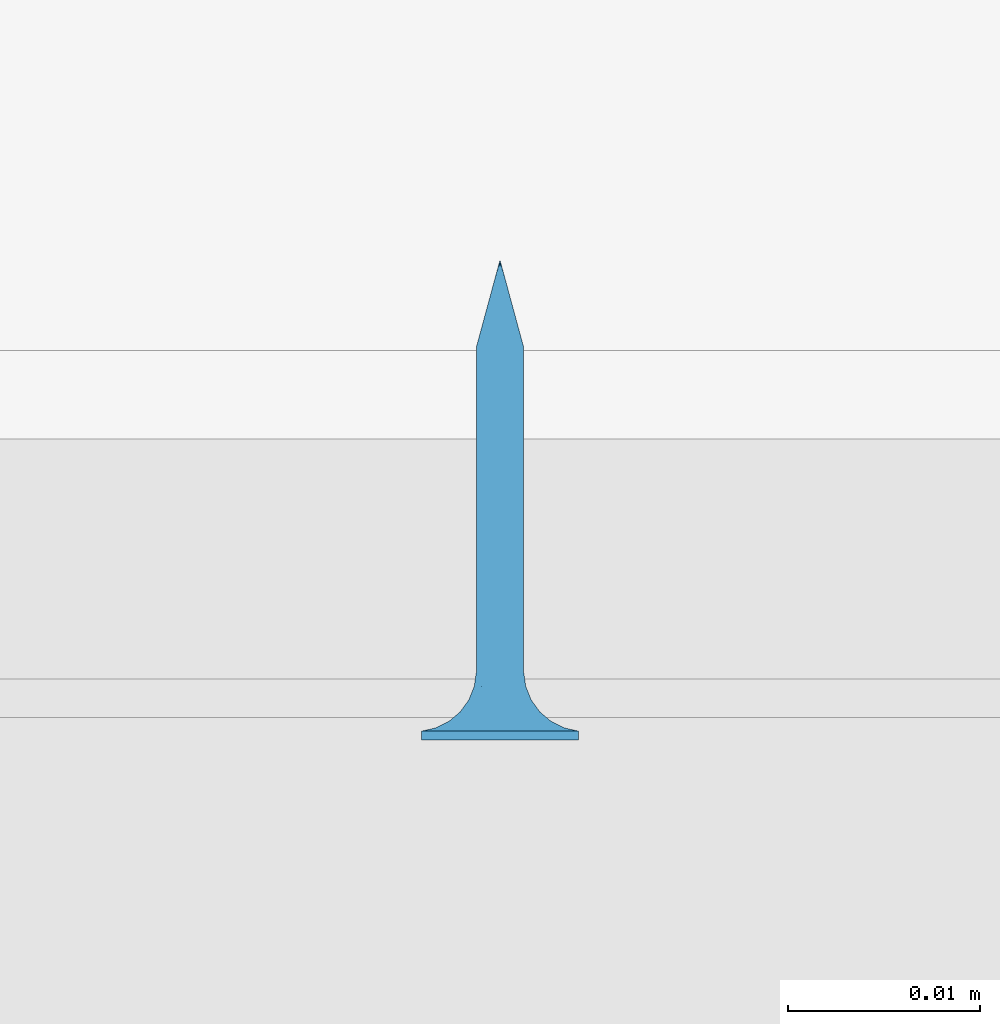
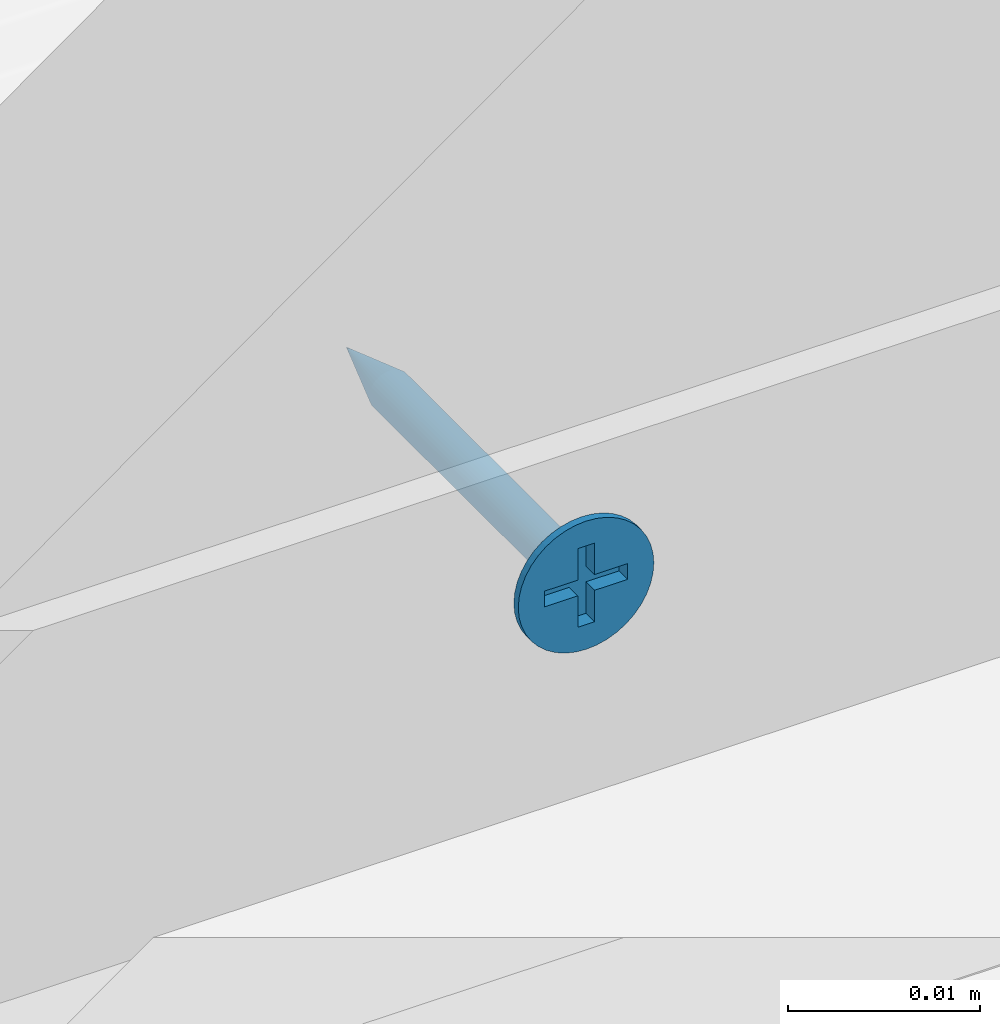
# One storey, part 37 of 79: 1 slab.
"""IFC2X3 building model written with IfcOpenShell, lengths in millimetres."""

from ifc_helpers import new_model, entity, si_unit, converted_unit, direction, frame, origin, origin_with_axes, place, context, project, spatial, faceted_brep, element, save


model = new_model("IFC2X3")

# Units and contexts
model_context = context("Model", 3, precision=1e-05, world=origin(), true_north=direction((0.0, 1.0, 0.0)))
ifc_project = project(units=[si_unit("LENGTHUNIT", "METRE", prefix="MILLI"), si_unit("AREAUNIT", "SQUARE_METRE"), si_unit("VOLUMEUNIT", "CUBIC_METRE"), converted_unit("PLANEANGLEUNIT", "DEGREE", entity("IfcPlaneAngleMeasure", 0.01745), si_unit("PLANEANGLEUNIT", "RADIAN"), dimensions=[0, 0, 0, 0, 0, 0, 0]), si_unit("SOLIDANGLEUNIT", "STERADIAN"), si_unit("MASSUNIT", "GRAM"), si_unit("TIMEUNIT", "SECOND"), si_unit("THERMODYNAMICTEMPERATUREUNIT", "DEGREE_CELSIUS"), si_unit("LUMINOUSINTENSITYUNIT", "LUMEN")], contexts=[model_context])

# Site, building, storey
site_placement = place(None, origin_with_axes())
site = spatial("IfcSite", under=ifc_project, at=site_placement, Name="Default Site", CompositionType="ELEMENT")
building_placement = place(site_placement, origin_with_axes())
building = spatial("IfcBuilding", under=site, at=building_placement, Name="Default Building", CompositionType="ELEMENT")
storey_placement = place(building_placement, origin_with_axes())
storey = spatial("IfcBuildingStorey", under=building, at=storey_placement, Name="Default Building Storey", CompositionType="ELEMENT", Elevation=0.0)

# Slab
slab_placement = place(storey_placement, frame((3480.499834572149, 5017.241866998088, 440.6779499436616), z_axis=(0.0, 0.0, 1.0), x_axis=(1.0, 0.0, 0.0)))
element("IfcSlab", 1, at=slab_placement, inside=storey, Name="Łącznik mechaniczny", context=model_context, shape_type="Brep", body=[
    faceted_brep([(-136.5890362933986, -3387.475459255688, 554.9298199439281), (-136.4636235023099, -3387.475459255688, 555.0766594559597), (-136.4636235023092, -3370.55807436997, 555.0766594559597), (-136.5890362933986, -3370.55807436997, 554.9298199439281), (-136.9005263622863, -3387.475459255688, 554.7035091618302), (-136.9005263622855, -3370.55807436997, 554.7035091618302), (-137.0789337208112, -3370.55807436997, 554.6296104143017), (-137.078933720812, -3387.475459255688, 554.6296104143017), (-137.2667048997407, -3387.475459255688, 554.5845305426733), (-137.2667048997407, -3370.55807436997, 554.5845305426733), (-137.4592163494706, -3370.55807436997, 554.5693795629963), (-137.4592163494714, -3387.475459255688, 554.5693795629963), (-136.4636235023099, -3387.475459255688, 556.5233405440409), (-136.5890362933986, -3387.475459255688, 556.6701800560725), (-136.5890362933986, -3370.55807436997, 556.6701800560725), (-136.4636235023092, -3370.55807436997, 556.5233405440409), (-138.4548091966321, -3370.55807436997, 556.5233405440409), (-138.3293964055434, -3370.55807436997, 556.6701800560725), (-138.3293964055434, -3387.475459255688, 556.6701800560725), (-138.4548091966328, -3387.475459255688, 556.5233405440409), (-136.7358758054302, -3370.55807436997, 554.8044071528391), (-136.7358758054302, -3387.475459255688, 554.8044071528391), (-138.1825568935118, -3387.475459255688, 556.7955928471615), (-138.1825568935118, -3370.55807436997, 556.7955928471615), (-138.0179063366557, -3370.55807436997, 556.8964908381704), (-138.0179063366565, -3387.475459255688, 556.8964908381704), (-136.3627255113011, -3387.475459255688, 556.3586899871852), (-136.3627255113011, -3370.55807436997, 556.3586899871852), (-136.7358758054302, -3387.475459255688, 556.7955928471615), (-136.7358758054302, -3370.55807436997, 556.7955928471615), (-137.6517277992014, -3387.475459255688, 554.5845305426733), (-137.6517277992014, -3370.55807436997, 554.5845305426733), (-137.83949897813, -3370.55807436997, 554.6296104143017), (-137.8394989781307, -3387.475459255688, 554.6296104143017), (-136.3627255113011, -3387.475459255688, 555.241310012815), (-136.3627255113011, -3370.55807436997, 555.241310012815), (-138.0179063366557, -3370.55807436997, 554.7035091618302), (-138.0179063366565, -3387.475459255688, 554.7035091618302), (-138.6746858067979, -3370.55807436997, 555.6074885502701), (-138.6898367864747, -3370.55807436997, 555.8000000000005), (-138.6898367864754, -3387.475459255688, 555.8000000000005), (-138.6746858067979, -3387.475459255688, 555.6074885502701), (-136.2285959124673, -3387.475459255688, 555.8000000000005), (-136.2437468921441, -3387.475459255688, 555.9925114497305), (-136.2437468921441, -3370.55807436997, 555.9925114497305), (-136.2285959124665, -3370.55807436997, 555.8000000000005), (-138.3293964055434, -3370.55807436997, 554.9298199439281), (-138.4548091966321, -3370.55807436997, 555.0766594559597), (-138.4548091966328, -3387.475459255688, 555.0766594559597), (-138.3293964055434, -3387.475459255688, 554.9298199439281), (-137.83949897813, -3370.55807436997, 556.9703895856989), (-137.8394989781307, -3387.475459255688, 556.9703895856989), (-138.1825568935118, -3370.55807436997, 554.8044071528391), (-138.1825568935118, -3387.475459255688, 554.8044071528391), (-138.5557071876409, -3370.55807436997, 555.241310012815), (-138.6296059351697, -3370.55807436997, 555.4197173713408), (-138.6296059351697, -3387.475459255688, 555.4197173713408), (-138.5557071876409, -3387.475459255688, 555.241310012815), (-136.2888267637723, -3387.475459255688, 555.4197173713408), (-136.2437468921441, -3387.475459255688, 555.6074885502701), (-136.2437468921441, -3370.55807436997, 555.6074885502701), (-136.2888267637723, -3370.55807436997, 555.4197173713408), (-136.2888267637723, -3387.475459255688, 556.1802826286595), (-136.2888267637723, -3370.55807436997, 556.1802826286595), (-137.4592163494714, -3387.475459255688, 557.0306204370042), (-137.4592163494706, -3370.55807436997, 557.0306204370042), (-137.2667048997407, -3370.55807436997, 557.0154694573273), (-137.2667048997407, -3387.475459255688, 557.0154694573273), (-137.0789337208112, -3370.55807436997, 556.9703895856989), (-137.078933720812, -3387.475459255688, 556.9703895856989), (-137.6517277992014, -3387.475459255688, 557.0154694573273), (-137.6517277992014, -3370.55807436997, 557.0154694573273), (-136.9005263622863, -3387.475459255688, 556.8964908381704), (-136.9005263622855, -3370.55807436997, 556.8964908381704), (-138.6296059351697, -3370.55807436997, 556.1802826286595), (-138.5557071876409, -3370.55807436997, 556.3586899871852), (-138.5557071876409, -3387.475459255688, 556.3586899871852), (-138.6296059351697, -3387.475459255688, 556.1802826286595), (-138.6746858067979, -3370.55807436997, 555.9925114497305), (-138.6746858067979, -3387.475459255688, 555.9925114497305), (-141.5377463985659, -3390.556721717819, 555.8000000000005), (-141.5377463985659, -3391.020944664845, 555.8000000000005), (-141.4875329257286, -3391.020944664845, 555.1619773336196), (-141.4875329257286, -3390.556721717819, 555.1619773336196), (-141.338128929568, -3391.020944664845, 554.539664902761), (-141.338128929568, -3390.556721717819, 554.539664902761), (-141.0932132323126, -3391.020944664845, 553.948386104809), (-141.0932132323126, -3390.556721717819, 553.948386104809), (-140.7588164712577, -3391.020944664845, 553.4027001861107), (-140.7588164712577, -3390.556721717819, 553.4027001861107), (-140.3431726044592, -3391.020944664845, 552.9160437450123), (-140.4541727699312, -3390.556721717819, 553.0314907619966), (-140.1080097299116, -3390.556721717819, 552.6986614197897), (-139.8565161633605, -3391.020944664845, 552.5003998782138), (-139.7251262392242, -3390.556721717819, 552.4088262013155), (-139.3108302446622, -3391.020944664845, 552.1660031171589), (-139.3108302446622, -3390.556721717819, 552.1660031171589), (-138.8708651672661, -3390.556721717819, 551.9735584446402), (-138.7195514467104, -3391.020944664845, 551.9210874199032), (-138.4113302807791, -3390.556721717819, 551.8341600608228), (-137.9385961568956, -3390.556721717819, 551.7497404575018), (-138.0972390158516, -3391.020944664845, 551.7716834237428), (-137.4592163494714, -3391.020944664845, 551.7214699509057), (-137.4592163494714, -3390.556721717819, 551.7214699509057), (-136.8211936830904, -3391.020944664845, 551.7716834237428), (-136.8211936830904, -3390.556721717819, 551.7716834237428), (-136.1988812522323, -3391.020944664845, 551.9210874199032), (-136.1988812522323, -3390.556721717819, 551.9210874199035), (-135.6076024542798, -3391.020944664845, 552.1660031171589), (-135.6076024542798, -3390.556721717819, 552.1660031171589), (-135.0619165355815, -3391.020944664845, 552.5003998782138), (-135.0619165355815, -3390.556721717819, 552.5003998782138), (-134.5752600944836, -3391.020944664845, 552.9160437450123), (-134.5752600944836, -3390.556721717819, 552.9160437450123), (-134.1596162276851, -3391.020944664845, 553.4027001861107), (-134.1596162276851, -3390.556721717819, 553.4027001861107), (-133.8252194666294, -3391.020944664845, 553.948386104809), (-133.8252194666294, -3390.556721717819, 553.948386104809), (-133.580303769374, -3391.020944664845, 554.539664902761), (-133.580303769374, -3390.556721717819, 554.539664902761), (-133.4308997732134, -3391.020944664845, 556.438022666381), (-133.4308997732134, -3390.556721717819, 556.438022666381), (-133.3806863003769, -3390.556721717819, 555.8000000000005), (-133.3806863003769, -3391.020944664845, 555.8000000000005), (-133.4308997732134, -3390.556721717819, 555.1619773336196), (-133.4308997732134, -3391.020944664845, 555.1619773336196), (-133.580303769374, -3391.020944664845, 557.0603350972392), (-133.580303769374, -3390.556721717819, 557.0603350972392), (-133.8252194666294, -3391.020944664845, 557.6516138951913), (-133.8252194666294, -3390.556721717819, 557.6516138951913), (-134.1596162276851, -3391.020944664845, 558.1972998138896), (-134.1596162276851, -3390.556721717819, 558.1972998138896), (-134.5752600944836, -3391.020944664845, 558.683956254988), (-134.5752600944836, -3390.556721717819, 558.683956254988), (-135.0619165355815, -3391.020944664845, 559.0996001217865), (-135.0619165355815, -3390.556721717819, 559.0996001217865), (-135.6076024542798, -3391.020944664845, 559.4339968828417), (-135.6076024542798, -3390.556721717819, 559.4339968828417), (-136.1988812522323, -3391.020944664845, 559.6789125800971), (-136.1988812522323, -3390.556721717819, 559.6789125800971), (-136.8211936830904, -3391.020944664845, 559.8283165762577), (-136.8211936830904, -3390.556721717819, 559.8283165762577), (-137.4592163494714, -3391.020944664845, 559.8785300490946), (-137.4592163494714, -3390.556721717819, 559.8785300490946), (-138.0972390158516, -3391.020944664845, 559.8283165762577), (-138.0972390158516, -3390.556721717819, 559.8283165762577), (-138.7195514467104, -3391.020944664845, 559.6789125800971), (-138.7195514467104, -3390.556721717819, 559.6789125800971), (-139.3108302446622, -3391.020944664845, 559.4339968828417), (-139.3108302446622, -3390.556721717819, 559.4339968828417), (-139.8565161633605, -3391.020944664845, 559.0996001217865), (-139.8565161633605, -3390.556721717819, 559.0996001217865), (-140.3431726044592, -3391.020944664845, 558.683956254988), (-140.3431726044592, -3390.556721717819, 558.683956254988), (-140.7588164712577, -3391.020944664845, 558.1972998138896), (-140.7588164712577, -3390.556721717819, 558.1972998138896), (-141.0932132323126, -3391.020944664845, 557.6516138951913), (-141.0932132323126, -3390.556721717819, 557.6516138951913), (-141.338128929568, -3391.020944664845, 557.0603350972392), (-141.338128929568, -3390.556721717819, 557.0603350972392), (-141.4875329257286, -3391.020944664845, 556.438022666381), (-141.4875329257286, -3390.556721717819, 556.438022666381), (-137.8060615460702, -3388.229732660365, 554.5055560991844), (-137.4592163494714, -3388.229732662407, 554.4598930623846), (-138.1292698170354, -3388.229732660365, 554.6394333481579), (-138.4068150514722, -3388.229732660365, 554.8524012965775), (-138.6197830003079, -3388.229732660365, 555.1299465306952), (-138.7536602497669, -3388.229732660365, 555.4531548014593), (-138.7993232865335, -3388.229732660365, 555.7999999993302), (-138.7536602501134, -3388.229732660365, 556.1468451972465), (-138.6197830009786, -3388.229732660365, 556.4700534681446), (-138.4068150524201, -3388.229732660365, 556.7475987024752), (-138.1292698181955, -3388.229732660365, 556.9605666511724), (-137.8060615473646, -3388.229732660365, 557.0944439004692), (-137.4592163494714, -3388.229732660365, 557.1401069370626), (-137.1123711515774, -3388.229732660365, 557.0944439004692), (-136.7891628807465, -3388.229732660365, 556.9605666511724), (-136.5116176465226, -3388.229732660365, 556.7475987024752), (-136.2986496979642, -3388.229732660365, 556.4700534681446), (-136.1647724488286, -3388.229732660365, 556.1468451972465), (-136.1191094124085, -3388.229732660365, 555.7999999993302), (-136.1647724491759, -3388.229732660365, 555.4531548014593), (-136.2986496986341, -3388.229732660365, 555.1299465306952), (-136.5116176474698, -3388.229732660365, 554.8524012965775), (-136.7891628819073, -3388.229732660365, 554.6394333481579), (-137.1123711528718, -3388.229732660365, 554.5055560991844), (-137.4592163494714, -3388.936142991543, 554.1737111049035), (-137.8801308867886, -3388.936142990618, 554.2291255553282), (-138.2723607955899, -3388.936142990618, 554.39159250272), (-138.6091762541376, -3388.936142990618, 554.6500400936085), (-138.8676238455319, -3388.936142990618, 554.9868555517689), (-139.0300907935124, -3388.936142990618, 555.3790854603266), (-139.0855052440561, -3388.936142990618, 555.7999999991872), (-139.0300907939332, -3388.936142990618, 556.2209145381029), (-138.8676238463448, -3388.936142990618, 556.6131444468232), (-138.6091762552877, -3388.936142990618, 556.949959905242), (-138.2723607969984, -3388.936142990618, 557.2084074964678), (-137.8801308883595, -3388.936142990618, 557.3708744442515), (-137.4592163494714, -3388.936142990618, 557.4262888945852), (-137.0383018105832, -3388.936142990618, 557.3708744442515), (-136.6460719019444, -3388.936142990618, 557.2084074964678), (-136.3092564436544, -3388.936142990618, 556.949959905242), (-136.0508088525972, -3388.936142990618, 556.6131444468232), (-135.8883419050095, -3388.936142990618, 556.2209145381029), (-135.8329274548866, -3388.936142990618, 555.7999999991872), (-135.8883419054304, -3388.936142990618, 555.3790854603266), (-136.0508088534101, -3388.936142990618, 554.9868555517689), (-136.3092564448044, -3388.936142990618, 554.6500400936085), (-136.6460719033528, -3388.936142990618, 554.39159250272), (-137.0383018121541, -3388.936142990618, 554.2291255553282), (-137.4592163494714, -3389.553938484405, 553.727343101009), (-137.9956594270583, -3389.553938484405, 553.7979671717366), (-138.4955447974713, -3389.553938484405, 554.0050264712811), (-138.9248060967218, -3389.553938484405, 554.3344102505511), (-139.2541898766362, -3389.553938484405, 554.7636715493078), (-139.46124917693, -3389.553938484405, 555.2635569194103), (-139.5318732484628, -3389.553938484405, 555.7999999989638), (-139.4612491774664, -3389.553938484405, 556.3364430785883), (-139.2541898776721, -3389.553938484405, 556.8363284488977), (-138.9248060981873, -3389.553938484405, 557.2655897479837), (-138.495544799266, -3389.553938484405, 557.5949735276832), (-137.9956594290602, -3389.553938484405, 557.8020328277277), (-137.4592163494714, -3389.553938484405, 557.8726568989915), (-136.9227732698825, -3389.553938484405, 557.8020328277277), (-136.422887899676, -3389.553938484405, 557.5949735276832), (-135.9936266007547, -3389.553938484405, 557.2655897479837), (-135.6642428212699, -3389.553938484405, 556.8363284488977), (-135.4571835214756, -3389.553938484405, 556.3364430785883), (-135.3865594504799, -3389.553938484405, 555.7999999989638), (-135.457183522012, -3389.553938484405, 555.2635569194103), (-135.6642428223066, -3389.553938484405, 554.7636715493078), (-135.9936266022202, -3389.553938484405, 554.3344102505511), (-136.4228879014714, -3389.553938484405, 554.0050264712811), (-136.9227732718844, -3389.553938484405, 553.7979671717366), (-137.4592163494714, -3390.04747944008, 553.1465393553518), (-138.1459824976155, -3390.047479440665, 553.2369538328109), (-138.7859466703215, -3390.047479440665, 553.5020356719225), (-139.3354963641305, -3390.047479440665, 553.9237199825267), (-139.757180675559, -3390.047479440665, 554.4732696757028), (-140.0222625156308, -3390.047479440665, 555.1132338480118), (-140.1126769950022, -3390.047479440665, 555.7999999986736), (-140.0222625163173, -3390.047479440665, 556.4867661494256), (-139.7571806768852, -3390.047479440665, 557.1267303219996), (-139.3354963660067, -3390.047479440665, 557.6762800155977), (-138.7859466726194, -3390.047479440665, 558.0979643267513), (-138.1459825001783, -3390.047479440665, 558.3630461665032), (-137.4592163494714, -3390.047479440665, 558.4534606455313), (-136.7724501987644, -3390.047479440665, 558.3630461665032), (-136.1324860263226, -3390.047479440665, 558.0979643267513), (-135.5829363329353, -3390.047479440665, 557.6762800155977), (-135.1612520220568, -3390.047479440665, 557.1267303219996), (-134.8961701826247, -3390.047479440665, 556.4867661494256), (-134.8057557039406, -3390.047479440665, 555.7999999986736), (-134.8961701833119, -3390.047479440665, 555.1132338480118), (-135.1612520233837, -3390.047479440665, 554.4732696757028), (-135.5829363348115, -3390.047479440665, 553.9237199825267), (-136.1324860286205, -3390.047479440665, 553.5020356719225), (-136.7724502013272, -3390.047479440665, 553.2369538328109), (-137.4592163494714, -3390.388294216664, 552.4648055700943), (-138.3224281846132, -3390.388294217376, 552.5784495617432), (-139.1268135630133, -3390.388294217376, 552.9116368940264), (-139.8175549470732, -3390.388294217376, 553.4416613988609), (-140.3475794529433, -3390.388294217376, 554.1324027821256), (-140.6807667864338, -3390.388294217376, 554.9367881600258), (-140.7944107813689, -3390.388294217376, 555.7999999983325), (-140.6807667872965, -3390.388294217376, 556.6632118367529), (-140.3475794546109, -3390.388294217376, 557.4675972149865), (-139.8175549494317, -3390.388294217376, 558.1583385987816), (-139.1268135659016, -3390.388294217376, 558.6883631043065), (-138.3224281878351, -3390.388294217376, 559.0215504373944), (-137.4592163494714, -3390.388294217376, 559.1351944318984), (-136.5960045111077, -3390.388294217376, 559.0215504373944), (-135.7916191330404, -3390.388294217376, 558.6883631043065), (-135.1008777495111, -3390.388294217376, 558.1583385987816), (-134.5708532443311, -3390.388294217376, 557.4675972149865), (-134.2376659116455, -3390.388294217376, 556.6632118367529), (-134.1240219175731, -3390.388294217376, 555.7999999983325), (-134.2376659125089, -3390.388294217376, 554.9367881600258), (-134.5708532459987, -3390.388294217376, 554.1324027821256), (-135.1008777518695, -3390.388294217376, 553.4416613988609), (-135.7916191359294, -3390.388294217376, 552.9116368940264), (-136.5960045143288, -3390.388294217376, 552.5784495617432), (-137.4592163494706, -3366.021033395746, 555.8000000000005), (-139.9592163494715, -3391.020944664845, 556.3000000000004), (-137.9592163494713, -3391.020944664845, 556.3000000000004), (-139.9592163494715, -3391.020944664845, 555.3000000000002), (-137.9592163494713, -3391.020944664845, 555.3000000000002), (-137.9592163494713, -3391.020944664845, 553.3000000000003), (-136.9592163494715, -3391.020944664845, 553.3000000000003), (-136.9592163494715, -3391.020944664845, 555.3000000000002), (-134.9592163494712, -3391.020944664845, 555.3000000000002), (-134.9592163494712, -3391.020944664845, 556.3000000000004), (-136.9592163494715, -3391.020944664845, 556.3000000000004), (-136.9592163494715, -3391.020944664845, 558.3000000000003), (-137.9592163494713, -3391.020944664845, 558.3000000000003), (-136.9592163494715, -3390.128974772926, 556.3000000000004), (-134.9592163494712, -3390.128974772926, 556.3000000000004), (-134.9592163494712, -3390.128974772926, 555.3000000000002), (-136.9592163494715, -3390.128974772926, 555.3000000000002), (-136.9592163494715, -3390.128974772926, 553.3000000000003), (-137.9592163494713, -3390.128974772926, 553.3000000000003), (-137.9592163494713, -3390.128974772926, 555.3000000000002), (-139.9592163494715, -3390.128974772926, 555.3000000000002), (-139.9592163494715, -3390.128974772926, 556.3000000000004), (-137.9592163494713, -3390.128974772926, 556.3000000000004), (-137.9592163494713, -3390.128974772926, 558.3000000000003), (-136.9592163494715, -3390.128974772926, 558.3000000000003)], [[[0, 1, 2, 3]], [[4, 5, 6, 7]], [[8, 9, 10, 11]], [[12, 13, 14, 15]], [[16, 17, 18, 19]], [[0, 3, 20, 21]], [[22, 23, 24, 25]], [[26, 12, 15, 27]], [[28, 29, 14, 13]], [[30, 31, 32, 33]], [[1, 34, 35, 2]], [[18, 17, 23, 22]], [[7, 6, 9, 8]], [[33, 32, 36, 37]], [[38, 39, 40, 41]], [[42, 43, 44, 45]], [[46, 47, 48, 49]], [[25, 24, 50, 51]], [[37, 36, 52, 53]], [[54, 55, 56, 57]], [[53, 52, 46, 49]], [[47, 54, 57, 48]], [[58, 59, 60, 61]], [[59, 42, 45, 60]], [[43, 62, 63, 44]], [[64, 65, 66, 67]], [[67, 66, 68, 69]], [[55, 38, 41, 56]], [[70, 71, 65, 64]], [[72, 73, 29, 28]], [[74, 75, 76, 77]], [[69, 68, 73, 72]], [[39, 78, 79, 40]], [[75, 16, 19, 76]], [[62, 26, 27, 63]], [[11, 10, 31, 30]], [[21, 20, 5, 4]], [[34, 58, 61, 35]], [[51, 50, 71, 70]], [[78, 74, 77, 79]], [[80, 81, 82, 83]], [[84, 85, 83, 82]], [[86, 87, 85, 84]], [[87, 86, 88, 89]], [[88, 90, 89]], [[90, 91, 89]], [[92, 91, 93]], [[91, 90, 93]], [[93, 94, 92]], [[93, 95, 94]], [[95, 96, 94]], [[97, 96, 98]], [[96, 95, 98]], [[98, 99, 97]], [[100, 99, 101]], [[99, 98, 101]], [[101, 102, 100]], [[102, 103, 100]], [[103, 102, 104, 105]], [[106, 107, 105, 104]], [[108, 109, 107, 106]], [[109, 108, 110, 111]], [[112, 113, 111, 110]], [[113, 112, 114, 115]], [[116, 117, 115, 114]], [[118, 119, 117, 116]], [[120, 121, 122, 123]], [[123, 122, 124, 125]], [[119, 118, 125, 124]], [[126, 127, 121, 120]], [[128, 129, 127, 126]], [[129, 128, 130, 131]], [[132, 133, 131, 130]], [[133, 132, 134, 135]], [[136, 137, 135, 134]], [[138, 139, 137, 136]], [[139, 138, 140, 141]], [[142, 143, 141, 140]], [[143, 142, 144, 145]], [[146, 147, 145, 144]], [[148, 149, 147, 146]], [[149, 148, 150, 151]], [[152, 153, 151, 150]], [[153, 152, 154, 155]], [[156, 157, 155, 154]], [[158, 159, 157, 156]], [[159, 158, 160, 161]], [[81, 80, 161, 160]], [[162, 11, 30]], [[162, 163, 11]], [[30, 33, 162]], [[162, 33, 164]], [[37, 164, 33]], [[164, 37, 53]], [[53, 165, 164]], [[53, 49, 165]], [[166, 49, 48]], [[166, 165, 49]], [[48, 57, 166]], [[166, 57, 167]], [[56, 167, 57]], [[167, 56, 41]], [[41, 168, 167]], [[41, 40, 168]], [[169, 40, 79]], [[169, 168, 40]], [[79, 77, 169]], [[169, 77, 170]], [[76, 170, 77]], [[170, 76, 19]], [[19, 171, 170]], [[19, 18, 171]], [[172, 18, 22]], [[172, 171, 18]], [[22, 25, 172]], [[172, 25, 173]], [[51, 173, 25]], [[173, 51, 70]], [[70, 174, 173]], [[70, 64, 174]], [[175, 64, 67]], [[175, 174, 64]], [[67, 69, 175]], [[175, 69, 176]], [[72, 176, 69]], [[176, 72, 28]], [[28, 177, 176]], [[28, 13, 177]], [[178, 13, 12]], [[178, 177, 13]], [[12, 26, 178]], [[178, 26, 179]], [[62, 179, 26]], [[179, 62, 43]], [[43, 180, 179]], [[43, 42, 180]], [[181, 42, 59]], [[181, 180, 42]], [[59, 58, 181]], [[181, 58, 182]], [[34, 182, 58]], [[182, 34, 1]], [[1, 183, 182]], [[1, 0, 183]], [[184, 0, 21]], [[184, 183, 0]], [[21, 4, 184]], [[184, 4, 185]], [[7, 185, 4]], [[185, 7, 8]], [[8, 163, 185]], [[8, 11, 163]], [[186, 163, 187]], [[162, 187, 163]], [[164, 188, 187, 162]], [[165, 189, 188, 164]], [[166, 190, 189, 165]], [[167, 191, 190, 166]], [[168, 192, 191, 167]], [[169, 193, 192, 168]], [[170, 194, 193, 169]], [[171, 195, 194, 170]], [[172, 196, 195, 171]], [[173, 197, 196, 172]], [[174, 198, 197, 173]], [[175, 199, 198, 174]], [[176, 200, 199, 175]], [[177, 201, 200, 176]], [[178, 202, 201, 177]], [[179, 203, 202, 178]], [[180, 204, 203, 179]], [[181, 205, 204, 180]], [[182, 206, 205, 181]], [[183, 207, 206, 182]], [[184, 208, 207, 183]], [[185, 209, 208, 184]], [[185, 163, 209]], [[186, 209, 163]], [[210, 186, 211]], [[187, 211, 186]], [[188, 212, 211, 187]], [[189, 213, 212, 188]], [[190, 214, 213, 189]], [[191, 215, 214, 190]], [[192, 216, 215, 191]], [[193, 217, 216, 192]], [[194, 218, 217, 193]], [[195, 219, 218, 194]], [[196, 220, 219, 195]], [[197, 221, 220, 196]], [[198, 222, 221, 197]], [[199, 223, 222, 198]], [[200, 224, 223, 199]], [[201, 225, 224, 200]], [[202, 226, 225, 201]], [[203, 227, 226, 202]], [[204, 228, 227, 203]], [[205, 229, 228, 204]], [[206, 230, 229, 205]], [[207, 231, 230, 206]], [[208, 232, 231, 207]], [[209, 233, 232, 208]], [[209, 186, 233]], [[210, 233, 186]], [[234, 210, 235]], [[211, 235, 210]], [[212, 236, 235, 211]], [[213, 237, 236, 212]], [[214, 238, 237, 213]], [[215, 239, 238, 214]], [[216, 240, 239, 215]], [[217, 241, 240, 216]], [[218, 242, 241, 217]], [[219, 243, 242, 218]], [[220, 244, 243, 219]], [[221, 245, 244, 220]], [[222, 246, 245, 221]], [[223, 247, 246, 222]], [[224, 248, 247, 223]], [[225, 249, 248, 224]], [[226, 250, 249, 225]], [[227, 251, 250, 226]], [[228, 252, 251, 227]], [[229, 253, 252, 228]], [[230, 254, 253, 229]], [[231, 255, 254, 230]], [[232, 256, 255, 231]], [[233, 257, 256, 232]], [[233, 210, 257]], [[234, 257, 210]], [[258, 99, 100]], [[258, 259, 99]], [[100, 103, 258]], [[258, 234, 259]], [[235, 259, 234]], [[259, 96, 97]], [[259, 260, 96]], [[97, 99, 259]], [[236, 260, 259, 235]], [[261, 91, 92]], [[260, 92, 94]], [[260, 261, 92]], [[94, 96, 260]], [[237, 261, 260, 236]], [[262, 87, 89]], [[89, 261, 262]], [[89, 91, 261]], [[238, 262, 261, 237]], [[85, 87, 263]], [[262, 263, 87]], [[239, 263, 262, 238]], [[263, 80, 83]], [[263, 264, 80]], [[83, 85, 263]], [[240, 264, 263, 239]], [[265, 159, 161]], [[161, 264, 265]], [[161, 80, 264]], [[241, 265, 264, 240]], [[265, 266, 157, 159]], [[242, 266, 265, 241]], [[266, 153, 155]], [[266, 267, 153]], [[155, 157, 266]], [[243, 267, 266, 242]], [[268, 149, 151]], [[151, 267, 268]], [[151, 153, 267]], [[244, 268, 267, 243]], [[268, 269, 147, 149]], [[245, 269, 268, 244]], [[269, 143, 145]], [[269, 270, 143]], [[145, 147, 269]], [[246, 270, 269, 245]], [[271, 139, 141]], [[141, 270, 271]], [[141, 143, 270]], [[247, 271, 270, 246]], [[271, 272, 137, 139]], [[248, 272, 271, 247]], [[272, 133, 135]], [[272, 273, 133]], [[135, 137, 272]], [[249, 273, 272, 248]], [[274, 129, 131]], [[131, 273, 274]], [[131, 133, 273]], [[250, 274, 273, 249]], [[274, 275, 127, 129]], [[251, 275, 274, 250]], [[275, 122, 121]], [[275, 276, 122]], [[121, 127, 275]], [[252, 276, 275, 251]], [[277, 119, 124]], [[124, 276, 277]], [[124, 122, 276]], [[253, 277, 276, 252]], [[117, 119, 278]], [[277, 278, 119]], [[254, 278, 277, 253]], [[278, 113, 115]], [[278, 279, 113]], [[115, 117, 278]], [[255, 279, 278, 254]], [[280, 109, 111]], [[111, 279, 280]], [[111, 113, 279]], [[256, 280, 279, 255]], [[107, 109, 281]], [[280, 281, 109]], [[257, 281, 280, 256]], [[257, 234, 281]], [[258, 281, 234]], [[281, 103, 105]], [[281, 258, 103]], [[105, 107, 281]], [[38, 55, 282]], [[282, 39, 38]], [[55, 54, 282]], [[47, 46, 282]], [[282, 54, 47]], [[52, 36, 282]], [[282, 46, 52]], [[36, 32, 282]], [[31, 10, 282]], [[282, 32, 31]], [[9, 6, 282]], [[282, 10, 9]], [[6, 5, 282]], [[20, 3, 282]], [[282, 5, 20]], [[2, 35, 282]], [[282, 3, 2]], [[35, 61, 282]], [[60, 45, 282]], [[282, 61, 60]], [[44, 63, 282]], [[282, 45, 44]], [[63, 27, 282]], [[15, 14, 282]], [[282, 27, 15]], [[29, 73, 282]], [[282, 14, 29]], [[73, 68, 282]], [[66, 65, 282]], [[282, 68, 66]], [[71, 50, 282]], [[282, 65, 71]], [[50, 24, 282]], [[23, 17, 282]], [[282, 24, 23]], [[16, 75, 282]], [[282, 17, 16]], [[75, 74, 282]], [[78, 39, 282]], [[282, 74, 78]], [[283, 156, 154, 284]], [[283, 285, 286, 287, 288, 289, 290, 291, 292, 293, 294, 284, 154, 152, 150, 148, 146, 144, 142, 140, 138, 136, 134, 132, 130, 128, 126, 120, 123, 125, 118, 116, 114, 112, 110, 108, 106, 104, 102, 101, 98, 95, 93, 90, 88, 86, 84, 82, 81, 160, 158, 156]], [[295, 296, 297, 298, 299, 300, 301, 302, 303, 304, 305, 306]], [[297, 290, 289, 298]], [[296, 291, 290, 297]], [[295, 292, 291, 296]], [[306, 293, 292, 295]], [[305, 294, 293, 306]], [[304, 284, 294, 305]], [[303, 283, 284, 304]], [[302, 285, 283, 303]], [[301, 286, 285, 302]], [[300, 287, 286, 301]], [[299, 288, 287, 300]], [[298, 289, 288, 299]]]),
])

save(model, "model.ifc")
